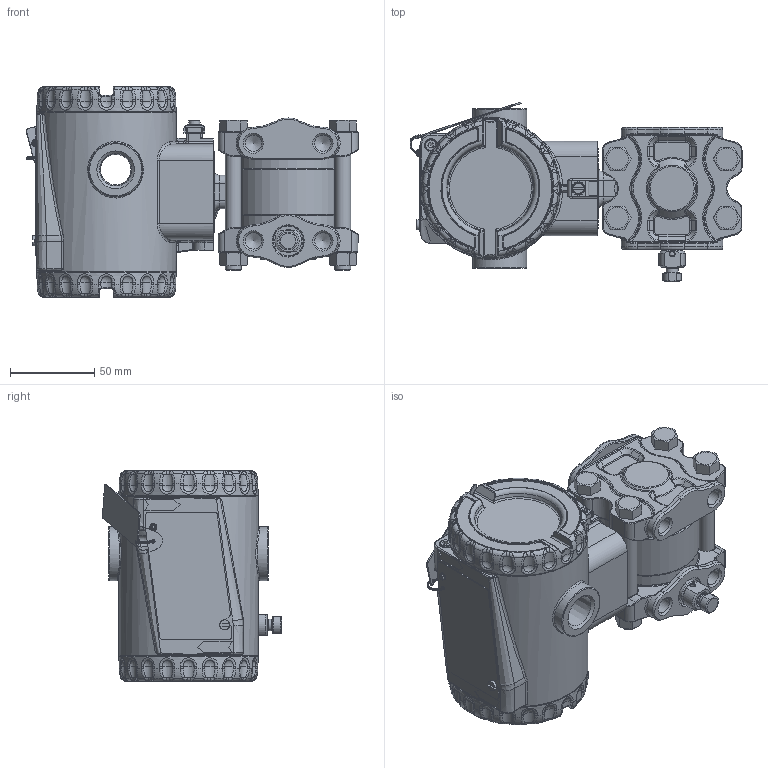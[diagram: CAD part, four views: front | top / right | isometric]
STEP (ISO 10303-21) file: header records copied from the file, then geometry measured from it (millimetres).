
FILE_DESCRIPTION(/* description */ (''),/* implementation_level */ '2;1');
FILE_NAME(/* name */ 'F:\Area\Desenvolvimento_2\Projects\Sensor\projetos\LD400-3d\dimensionais 3D clientes\LD400A5 1-4NPT purga oposta.stp',/* time_stamp */ '2023-02-02T09:59:00-03:00',/* author */ ('inventor02'),/* organization */ (''),/* preprocessor_version */ 'ST-DEVELOPER v17',/* originating_system */ 'Autodesk Inventor 2019',/* authorisation */ '');
FILE_SCHEMA (('CONFIG_CONTROL_DESIGN'));
Products named in the file (30): LD400A5 1-4NPT purga oposta; Carcaça 400 com tampas e plaqueta sem letras; 101-D-0845-05 carcaça LD400 sem letras; 101-B-3614-03-tampa 400 sem letras; Tampa visor 400 montada sem letras; 101-B-3612-05 tampa visor 400 sem letras; 101-A-6107; oring 2034; 00034775-0; WHW_250; DIN 915 - M6 x 10; Chapa aterramento externo; 201-A-1771-02 inserto terra recartilhado; AS 1969 - ST4,2; ISO 1207 - M4 x 8; ANSI B18.3.1M - M4x0,7 x 8; Subconjunto plaqueta 400; plaqueta 400 em branco; Parafuso da Plaqueta; Rebite da Plaqueta; 096-A-0169-03; 101-A-0502-01; absoluto standard fx5 purga oposta; Flange manometrico standard; flange diferencial std sem purga; involucro fx5 apos a usinagem final; Paraf. 3-8 x 16 UNC; Porca 3-8 x 16 UNC; 075-B-0046-purgador; Sangria
Assembly tree (36 placements, depth 4):
  LD400A5 1-4NPT purga oposta
    Carcaça 400 com tampas e plaqueta sem letras
      101-D-0845-05 carcaça LD400 sem letras
      101-B-3614-03-tampa 400 sem letras
      Tampa visor 400 montada sem letras
        101-B-3612-05 tampa visor 400 sem letras
        101-A-6107
        oring 2034
        00034775-0
        WHW_250
      DIN 915 - M6 x 10
      Chapa aterramento externo
      201-A-1771-02 inserto terra recartilhado
      AS 1969 - ST4,2
      ISO 1207 - M4 x 8
      ANSI B18.3.1M - M4x0,7 x 8  x2
      Subconjunto plaqueta 400
        plaqueta 400 em branco
        Parafuso da Plaqueta
        Rebite da Plaqueta
        096-A-0169-03
        101-A-0502-01
    absoluto standard fx5 purga oposta
      Flange manometrico standard
      flange diferencial std sem purga
      involucro fx5 apos a usinagem final
      Paraf. 3-8 x 16 UNC  x4
      Porca 3-8 x 16 UNC  x4
      075-B-0046-purgador
      Sangria
Bounding box: 197.25 x 106.39 x 125 mm (x, y, z)
Volume: 600930.9 mm3; surface area: 232301.1 mm2
Topology: 32 solids, 32 shells, 2657 faces, 6455 edges, 3847 vertices
Faces by surface type: bspline 667, plane 654, cylinder 617, torus 452, cone 205, sphere 62
Full cylindrical faces by diameter (mm): 2 x2, 2.1 x1, 2.2 x1, 2.459 x3, 2.7 x1, 3 x4, 3.242 x3, 3.571 x1, 4 x4, 4.3 x2, 4.4 x1, 4.917 x1, 5.5 x3, 6 x2, 6.1 x2, 6.2 x1, 6.8 x1, 7 x3, 7.6 x2, 7.798 x4, 8 x1, 9.525 x4, 9.728 x8, 10.5 x8, 10.719 x2, 13.8 x1, 14 x1, 18.3 x2, 18.5 x2, 32 x2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
Entity records: 97583 total; most frequent: CARTESIAN_POINT 38652, ORIENTED_EDGE 12398, DIRECTION 11905, EDGE_CURVE 6199, AXIS2_PLACEMENT_3D 5075, VERTEX_POINT 3721, CIRCLE 2927, EDGE_LOOP 2664
